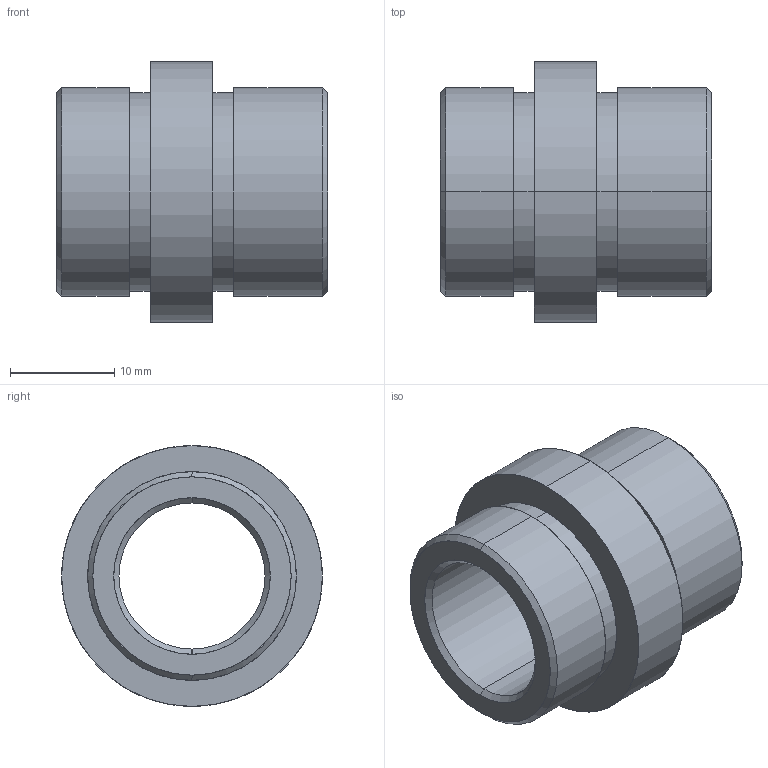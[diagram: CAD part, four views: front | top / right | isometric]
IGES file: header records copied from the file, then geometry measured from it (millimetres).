
Start section: SolidWorks IGES FILE using analytic representation for surfaces
Global section: file name: D:\zzzzz\Delta\D21\14\D21 - 14x17.IGS; native system: SolidWorks 2004 by SolidWorks Corporation; preprocessor: Version 5.3; author: Hkn; date: 080326.191209; units: millimetre
Bounding box: 26 x 25 x 25 mm (x, y, z)
Surface area: 3592.7 mm2 (no closed solid volume)
Topology: 0 solids, 0 shells, 26 faces, 464 edges, 464 vertices
Faces by surface type: revolution 20, bspline 6
